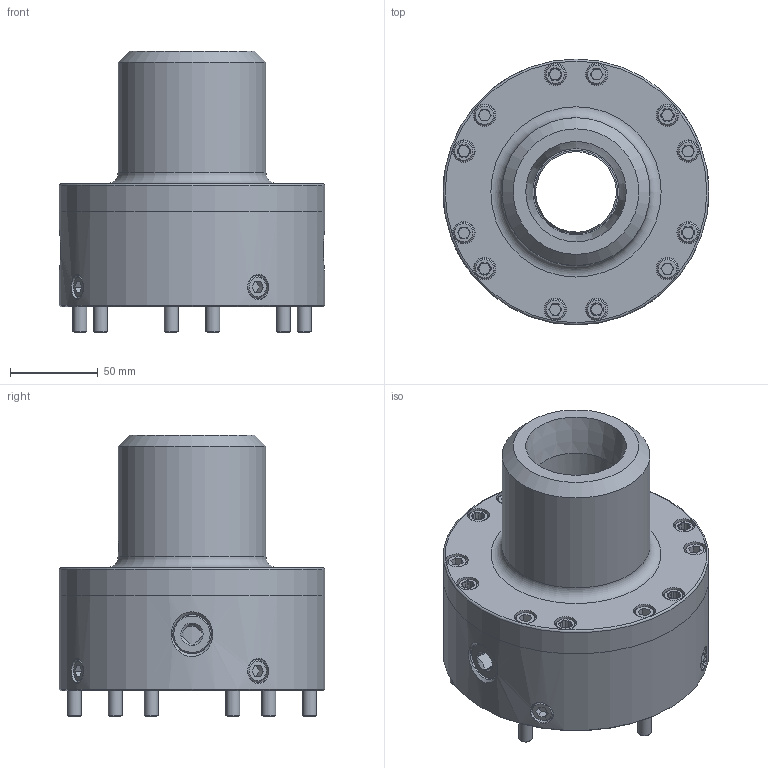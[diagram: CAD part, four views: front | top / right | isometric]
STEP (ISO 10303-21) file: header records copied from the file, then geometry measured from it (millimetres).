
FILE_DESCRIPTION (( 'STEP AP203' ), '1' );
FILE_NAME ('72149.STEP', '2019-06-11T17:05:12', ( 'ssmith' ), ( 'Microsoft' ), 'SwSTEP 2.0', 'SolidWorks 2018', '' );
FILE_SCHEMA (( 'CONFIG_CONTROL_DESIGN' ));
Length unit declared in the file: inch
Products named in the file (1): 72149
Bounding box: 151.13 x 151.13 x 160.32 mm (x, y, z)
Surface area: 158242.7 mm2 (no closed solid volume)
Topology: 0 solids, 32 shells, 350 faces, 1249 edges, 939 vertices
Faces by surface type: plane 173, cylinder 124, cone 46, torus 7
Full cylindrical faces by diameter (mm): 3.962 x4, 7.874 x6, 8.738 x6, 9.144 x2, 9.525 x5, 10.312 x1, 12.7 x14, 13.487 x4, 22.25 x2, 45.72 x1, 49.225 x1, 50.927 x1, 79.324 x1, 84.125 x1, 114.3 x1, 151.13 x2
Entity records: 14279 total; most frequent: CARTESIAN_POINT 3837, DIRECTION 2209, ORIENTED_EDGE 1680, EDGE_CURVE 1137, VERTEX_POINT 925, AXIS2_PLACEMENT_3D 747, LINE 715, VECTOR 715
